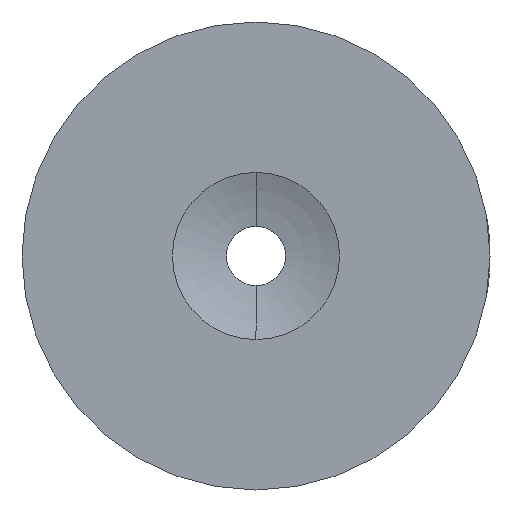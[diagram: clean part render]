
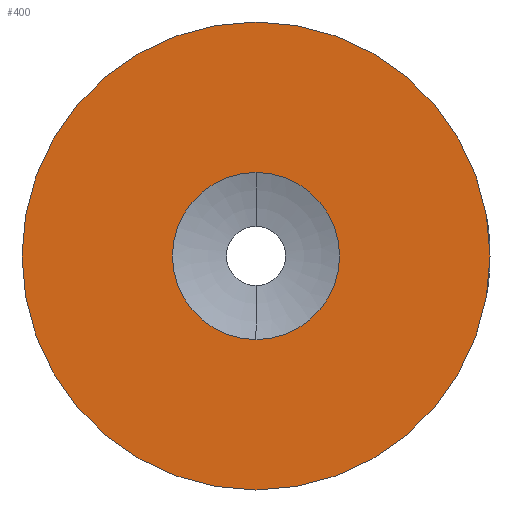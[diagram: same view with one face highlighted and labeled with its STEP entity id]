
A CAD part, left-side view. The second image highlights one B-rep face of the part: STEP entity #400.
In plain terms, the highlighted planar face has unit normal (-1, 0, 0).
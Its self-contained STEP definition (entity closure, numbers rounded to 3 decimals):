
#2 = AXIS2_PLACEMENT_3D ( 'NONE', #240, #227, #458 ) ;
#4 = CIRCLE ( 'NONE', #132, 14. ) ;
#21 = VERTEX_POINT ( 'NONE', #152 ) ;
#26 = CARTESIAN_POINT ( 'NONE',  ( 0., 0., -14. ) ) ;
#28 = ORIENTED_EDGE ( 'NONE', *, *, #76, .T. ) ;
#34 = CIRCLE ( 'NONE', #2, 14. ) ;
#36 = CARTESIAN_POINT ( 'NONE',  ( 0., 0., 14. ) ) ;
#43 = VERTEX_POINT ( 'NONE', #353 ) ;
#51 = DIRECTION ( 'NONE',  ( 0., 0., -1. ) ) ;
#54 = DIRECTION ( 'NONE',  ( 1., 0., 0. ) ) ;
#56 = DIRECTION ( 'NONE',  ( 0., 0., 1. ) ) ;
#62 = DIRECTION ( 'NONE',  ( -1., 0., 0. ) ) ;
#68 = AXIS2_PLACEMENT_3D ( 'NONE', #456, #201, #500 ) ;
#71 = CARTESIAN_POINT ( 'NONE',  ( 0., 0., 0. ) ) ;
#76 = EDGE_CURVE ( 'NONE', #498, #549, #4, .T. ) ;
#92 = ORIENTED_EDGE ( 'NONE', *, *, #232, .T. ) ;
#94 = CARTESIAN_POINT ( 'NONE',  ( 0., 1.75, 0. ) ) ;
#108 = EDGE_CURVE ( 'NONE', #21, #43, #224, .T. ) ;
#110 = PLANE ( 'NONE',  #170 ) ;
#126 = ORIENTED_EDGE ( 'NONE', *, *, #108, .F. ) ;
#132 = AXIS2_PLACEMENT_3D ( 'NONE', #199, #497, #242 ) ;
#136 = FACE_OUTER_BOUND ( 'NONE', #164, .T. ) ;
#152 = CARTESIAN_POINT ( 'NONE',  ( 0., 0., -5. ) ) ;
#164 = EDGE_LOOP ( 'NONE', ( #92, #28 ) ) ;
#170 = AXIS2_PLACEMENT_3D ( 'NONE', #94, #54, #51 ) ;
#199 = CARTESIAN_POINT ( 'NONE',  ( 0., 0., 0. ) ) ;
#201 = DIRECTION ( 'NONE',  ( -1., 0., 0. ) ) ;
#224 = CIRCLE ( 'NONE', #68, 5. ) ;
#227 = DIRECTION ( 'NONE',  ( -1., 0., 0. ) ) ;
#232 = EDGE_CURVE ( 'NONE', #549, #498, #34, .T. ) ;
#240 = CARTESIAN_POINT ( 'NONE',  ( 0., 0., 0. ) ) ;
#242 = DIRECTION ( 'NONE',  ( 0., 0., 1. ) ) ;
#259 = CIRCLE ( 'NONE', #546, 5. ) ;
#322 = ORIENTED_EDGE ( 'NONE', *, *, #384, .F. ) ;
#350 = FACE_BOUND ( 'NONE', #447, .T. ) ;
#353 = CARTESIAN_POINT ( 'NONE',  ( 0., 0., 5. ) ) ;
#384 = EDGE_CURVE ( 'NONE', #43, #21, #259, .T. ) ;
#400 = ADVANCED_FACE ( 'NONE', ( #350, #136 ), #110, .F. ) ;
#447 = EDGE_LOOP ( 'NONE', ( #322, #126 ) ) ;
#456 = CARTESIAN_POINT ( 'NONE',  ( 0., 0., 0. ) ) ;
#458 = DIRECTION ( 'NONE',  ( 0., 0., 1. ) ) ;
#497 = DIRECTION ( 'NONE',  ( -1., 0., 0. ) ) ;
#498 = VERTEX_POINT ( 'NONE', #26 ) ;
#500 = DIRECTION ( 'NONE',  ( 0., 0., 1. ) ) ;
#546 = AXIS2_PLACEMENT_3D ( 'NONE', #71, #62, #56 ) ;
#549 = VERTEX_POINT ( 'NONE', #36 ) ;
